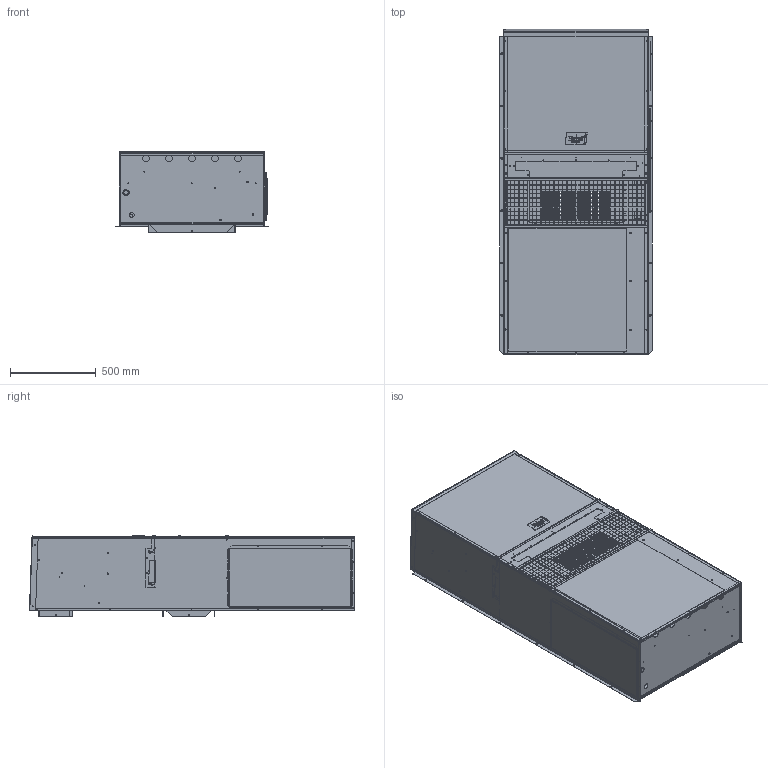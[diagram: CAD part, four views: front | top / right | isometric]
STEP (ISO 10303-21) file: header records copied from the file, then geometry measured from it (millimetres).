
FILE_DESCRIPTION (( 'STEP AP203' ), '1' );
FILE_NAME ('STEP_600.STEP', '2016-06-20T19:45:14', ( '' ), ( '' ), 'SwSTEP 2.0', 'SolidWorks 2016', '' );
FILE_SCHEMA (( 'CONFIG_CONTROL_DESIGN' ));
Products named in the file (1): STEP_600
Bounding box: 888.56 x 1893.78 x 477.25 mm (x, y, z)
Volume: 6276599.4 mm3; surface area: 13110577.4 mm2
Topology: 35 solids, 37 shells, 4567 faces, 12836 edges, 7751 vertices
Faces by surface type: cylinder 2276, plane 1413, bspline 871, cone 6, sphere 1
Entity records: 174025 total; most frequent: CARTESIAN_POINT 65932, ORIENTED_EDGE 25672, DIRECTION 19743, EDGE_CURVE 12836, VERTEX_POINT 7750, AXIS2_PLACEMENT_3D 6880, LINE 5983, VECTOR 5983
